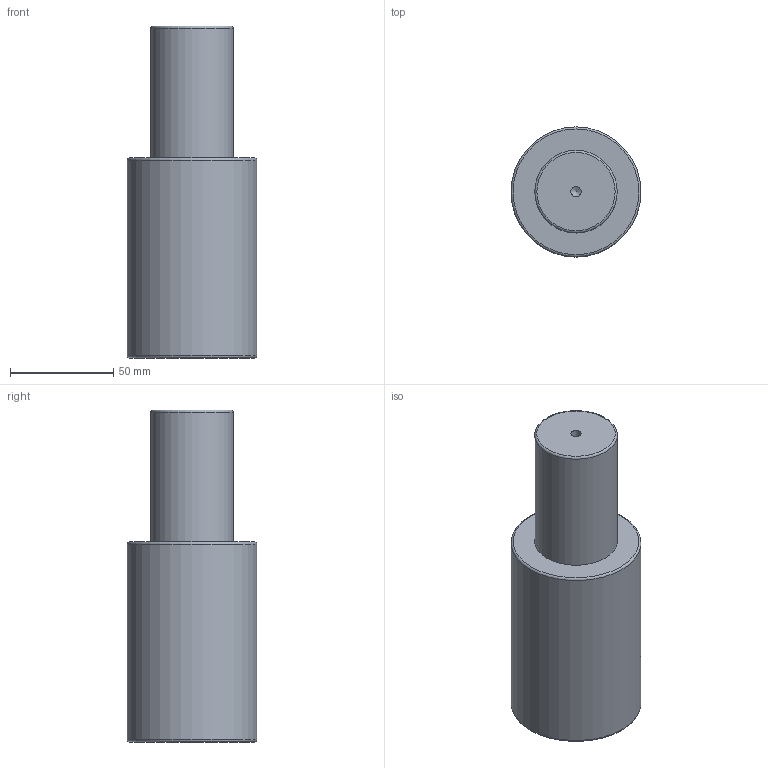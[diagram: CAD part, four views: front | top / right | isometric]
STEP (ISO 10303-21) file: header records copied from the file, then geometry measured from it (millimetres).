
FILE_DESCRIPTION(/* description */ (''),/* implementation_level */ '2;1');
FILE_NAME(/* name */ 'NV5-SMLX.63x63.stp',/* time_stamp */ '2018-08-31T16:08:30+02:00',/* author */ (''),/* organization */ (''),/* preprocessor_version */ 'ST-DEVELOPER v16',/* originating_system */ 'SIEMENS PLM Software NX 10.0',/* authorisation */ '');
FILE_SCHEMA (('AUTOMOTIVE_DESIGN { 1 0 10303 214 3 1 1 1 }'));
Length unit declared in the file: millimetre
Products named in the file (1): NV5-SMLX.63x63
Bounding box: 63 x 63 x 161 mm (x, y, z)
Volume: 381277.5 mm3; surface area: 33969.7 mm2
Topology: 1 solids, 1 shells, 12 faces, 24 edges, 15 vertices
Faces by surface type: cylinder 4, torus 3, plane 3, cone 2
Full cylindrical faces by diameter (mm): 5 x1, 8.5 x1, 40 x1, 63 x1
Entity records: 266 total; most frequent: DIRECTION 48, CARTESIAN_POINT 37, FACE_BOUND 24, AXIS2_PLACEMENT_3D 24, EDGE_LOOP 22, ORIENTED_EDGE 22, VERTEX_POINT 13, ADVANCED_FACE 12
